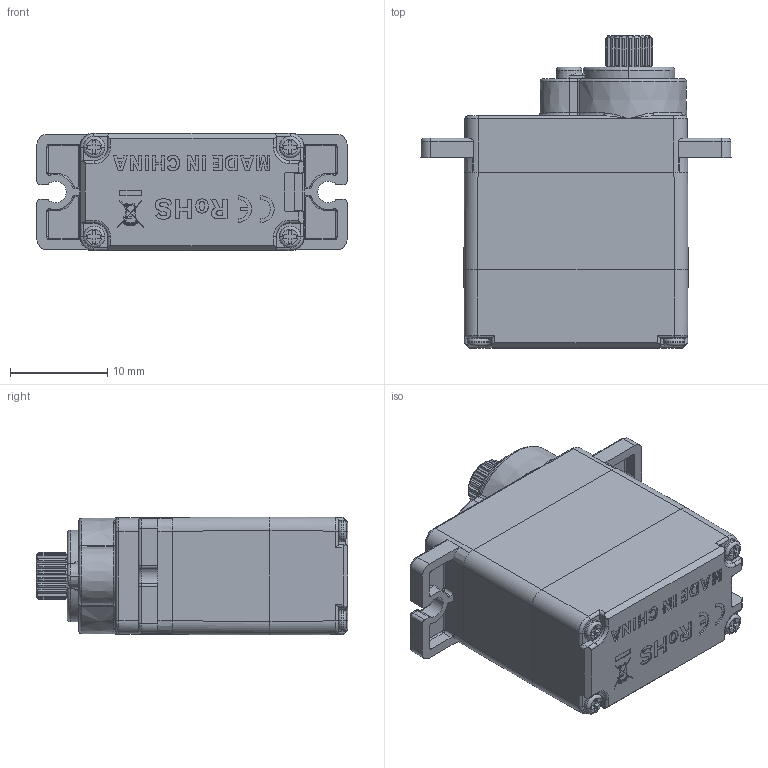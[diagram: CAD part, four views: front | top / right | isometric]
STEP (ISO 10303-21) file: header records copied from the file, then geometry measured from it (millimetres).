
FILE_DESCRIPTION((''),'2;1');
FILE_NAME('DDJ-9G4-B11','2024-01-13T',('Administrator'),(''),'PRO/ENGINEER BY PARAMETRIC TECHNOLOGY CORPORATION, 2010280','PRO/ENGINEER BY PARAMETRIC TECHNOLOGY CORPORATION, 2010280','');
FILE_SCHEMA(('CONFIG_CONTROL_DESIGN','SHAPE_APPEARANCE_LAYERS_GROUPS'));
Length unit declared in the file: millimetre
Products named in the file (1): DDJ-9G4-B11
Bounding box: 31.8 x 32 x 12.1 mm (x, y, z)
Volume: 7153.6 mm3; surface area: 2860.5 mm2
Topology: 1 solids, 1 shells, 853 faces, 2229 edges, 1421 vertices
Faces by surface type: plane 428, cylinder 239, extrusion 75, torus 43, bspline 39, sphere 17, cone 12
Entity records: 35508 total; most frequent: CARTESIAN_POINT 8105, ORIENTED_EDGE 4444, DIRECTION 3916, PRESENTATION_STYLE_ASSIGNMENT 2243, STYLED_ITEM 2223, CURVE_STYLE 2222, EDGE_CURVE 2222, VERTEX_POINT 1421
